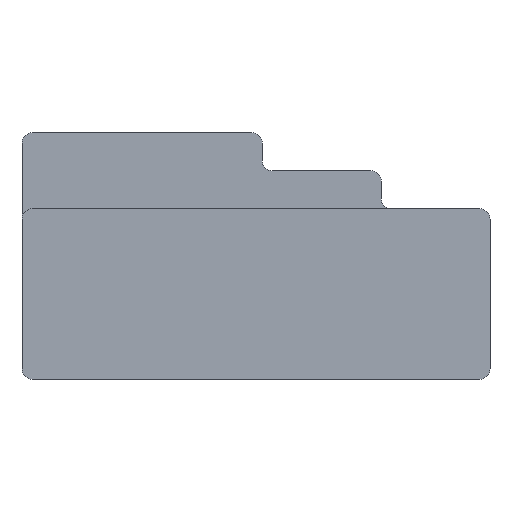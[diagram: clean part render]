
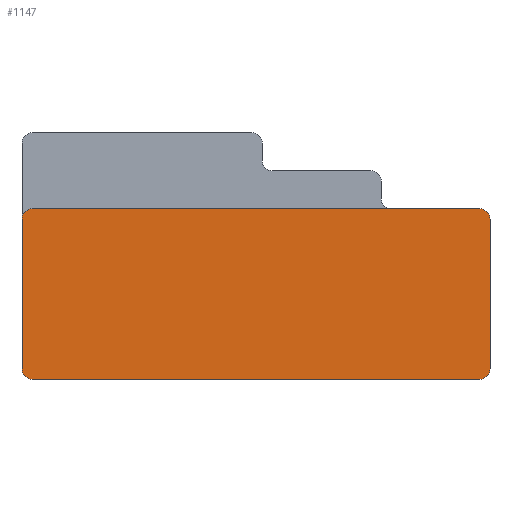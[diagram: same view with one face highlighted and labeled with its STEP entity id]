
A CAD part, front view. The second image highlights one B-rep face of the part: STEP entity #1147.
In plain terms, the highlighted planar face has unit normal (0, -1, 0).
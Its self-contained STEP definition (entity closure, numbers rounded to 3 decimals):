
#210=CARTESIAN_POINT('',(-10.9,-11.6,7.8));
#211=DIRECTION('',(0.,-1.,0.));
#212=DIRECTION('',(0.,0.,1.));
#213=AXIS2_PLACEMENT_3D('',#210,#211,#212);
#215=CARTESIAN_POINT('',(10.9,-11.6,7.8));
#216=DIRECTION('',(0.,-1.,0.));
#217=DIRECTION('',(1.,0.,0.));
#218=AXIS2_PLACEMENT_3D('',#215,#216,#217);
#220=CARTESIAN_POINT('',(10.9,-11.6,0.5));
#221=DIRECTION('',(0.,-1.,0.));
#222=DIRECTION('',(0.,0.,-1.));
#223=AXIS2_PLACEMENT_3D('',#220,#221,#222);
#225=CARTESIAN_POINT('',(-10.9,-11.6,0.5));
#226=DIRECTION('',(0.,-1.,0.));
#227=DIRECTION('',(-1.,0.,0.));
#228=AXIS2_PLACEMENT_3D('',#225,#226,#227);
#230=DIRECTION('',(0.,0.,1.));
#231=VECTOR('',#230,7.3);
#232=CARTESIAN_POINT('',(-11.4,-11.6,0.5));
#233=LINE('',#232,#231);
#318=DIRECTION('',(1.,0.,0.));
#319=VECTOR('',#318,21.8);
#320=CARTESIAN_POINT('',(-10.9,-11.6,8.3));
#321=LINE('',#320,#319);
#510=DIRECTION('',(1.,0.,0.));
#511=VECTOR('',#510,21.8);
#512=CARTESIAN_POINT('',(-10.9,-11.6,0.));
#513=LINE('',#512,#511);
#580=DIRECTION('',(0.,0.,1.));
#581=VECTOR('',#580,7.3);
#582=CARTESIAN_POINT('',(11.4,-11.6,0.5));
#583=LINE('',#582,#581);
#744=CARTESIAN_POINT('',(-10.9,-11.6,8.3));
#745=CARTESIAN_POINT('',(-11.4,-11.6,7.8));
#746=VERTEX_POINT('',#744);
#747=VERTEX_POINT('',#745);
#772=CARTESIAN_POINT('',(11.4,-11.6,7.8));
#773=VERTEX_POINT('',#772);
#774=CARTESIAN_POINT('',(10.9,-11.6,8.3));
#775=VERTEX_POINT('',#774);
#776=CARTESIAN_POINT('',(10.9,-11.6,0.));
#777=CARTESIAN_POINT('',(11.4,-11.6,0.5));
#778=VERTEX_POINT('',#776);
#779=VERTEX_POINT('',#777);
#788=CARTESIAN_POINT('',(-11.4,-11.6,0.5));
#789=VERTEX_POINT('',#788);
#790=CARTESIAN_POINT('',(-10.9,-11.6,0.));
#791=VERTEX_POINT('',#790);
#1125=CARTESIAN_POINT('',(-11.4,-11.6,0.));
#1126=DIRECTION('',(0.,-1.,0.));
#1127=DIRECTION('',(1.,0.,0.));
#1128=AXIS2_PLACEMENT_3D('',#1125,#1126,#1127);
#1129=PLANE('',#1128);
#1131=ORIENTED_EDGE('',*,*,#1130,.F.);
#1133=ORIENTED_EDGE('',*,*,#1132,.T.);
#1135=ORIENTED_EDGE('',*,*,#1134,.F.);
#1137=ORIENTED_EDGE('',*,*,#1136,.F.);
#1138=ORIENTED_EDGE('',*,*,#1115,.F.);
#1140=ORIENTED_EDGE('',*,*,#1139,.F.);
#1142=ORIENTED_EDGE('',*,*,#1141,.F.);
#1144=ORIENTED_EDGE('',*,*,#1143,.T.);
#1145=EDGE_LOOP('',(#1131,#1133,#1135,#1137,#1138,#1140,#1142,#1144));
#1146=FACE_OUTER_BOUND('',#1145,.F.);
#1147=ADVANCED_FACE('',(#1146),#1129,.T.);
#214=CIRCLE('',#213,0.5);
#219=CIRCLE('',#218,0.5);
#224=CIRCLE('',#223,0.5);
#229=CIRCLE('',#228,0.5);
#1115=EDGE_CURVE('',#778,#779,#224,.T.);
#1130=EDGE_CURVE('',#746,#747,#214,.T.);
#1132=EDGE_CURVE('',#746,#775,#321,.T.);
#1134=EDGE_CURVE('',#773,#775,#219,.T.);
#1136=EDGE_CURVE('',#779,#773,#583,.T.);
#1139=EDGE_CURVE('',#791,#778,#513,.T.);
#1141=EDGE_CURVE('',#789,#791,#229,.T.);
#1143=EDGE_CURVE('',#789,#747,#233,.T.);
